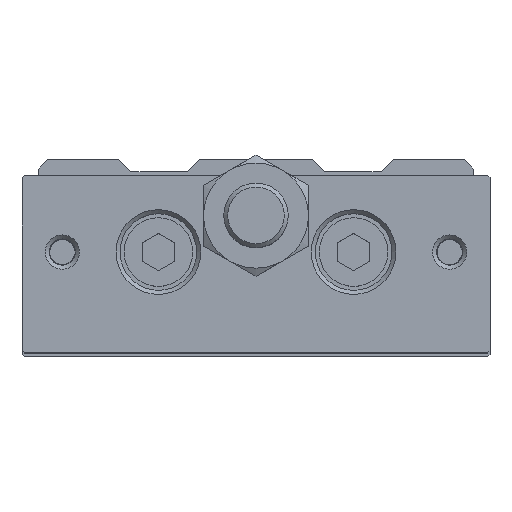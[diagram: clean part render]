
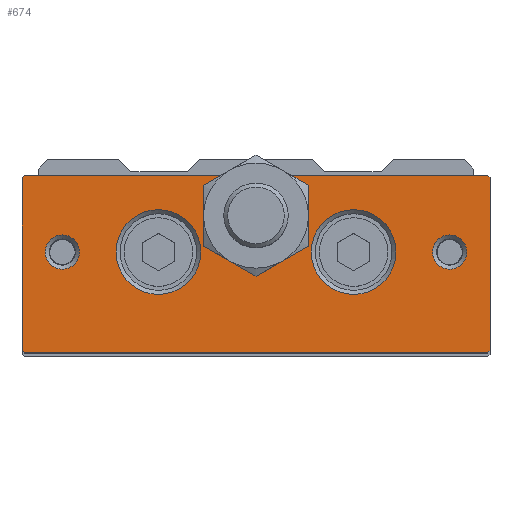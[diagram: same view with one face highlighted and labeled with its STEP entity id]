
A CAD part, top view. The second image highlights one B-rep face of the part: STEP entity #674.
In plain terms, the highlighted planar face has unit normal (0, 0, 1).
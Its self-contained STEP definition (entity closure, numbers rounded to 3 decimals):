
#455=CARTESIAN_POINT('',(-28.7,-13.,168.5));
#456=VERTEX_POINT('',#455);
#463=CARTESIAN_POINT('',(-29.,-12.7,168.5));
#464=VERTEX_POINT('',#463);
#465=CARTESIAN_POINT('',(-28.7,-13.,168.5));
#466=DIRECTION('',(-0.707,0.707,0.0));
#467=VECTOR('',#466,0.424);
#468=LINE('',#465,#467);
#469=EDGE_CURVE('',#456,#464,#468,.T.);
#486=CARTESIAN_POINT('',(-29.,8.7,168.5));
#487=VERTEX_POINT('',#486);
#488=CARTESIAN_POINT('',(-29.,8.7,168.5));
#489=DIRECTION('',(0.0,-1.0,0.0));
#490=VECTOR('',#489,21.4);
#491=LINE('',#488,#490);
#492=EDGE_CURVE('',#487,#464,#491,.T.);
#522=CARTESIAN_POINT('',(0.0,-13.,168.5));
#523=DIRECTION('',(0.0,0.0,1.0));
#524=DIRECTION('',(1.0,0.0,0.0));
#525=AXIS2_PLACEMENT_3D('',#522,#523,#524);
#526=PLANE('',#525);
#527=ORIENTED_EDGE('',*,*,#469,.F.);
#528=CARTESIAN_POINT('',(28.7,-13.,168.5));
#529=VERTEX_POINT('',#528);
#530=CARTESIAN_POINT('',(-28.7,-13.,168.5));
#531=DIRECTION('',(1.0,0.0,0.0));
#532=VECTOR('',#531,57.4);
#533=LINE('',#530,#532);
#534=EDGE_CURVE('',#456,#529,#533,.T.);
#535=ORIENTED_EDGE('',*,*,#534,.T.);
#536=CARTESIAN_POINT('',(29.,-12.7,168.5));
#537=VERTEX_POINT('',#536);
#538=CARTESIAN_POINT('',(29.,-12.7,168.5));
#539=DIRECTION('',(-0.707,-0.707,0.0));
#540=VECTOR('',#539,0.424);
#541=LINE('',#538,#540);
#542=EDGE_CURVE('',#537,#529,#541,.T.);
#543=ORIENTED_EDGE('',*,*,#542,.F.);
#544=CARTESIAN_POINT('',(29.,8.7,168.5));
#545=VERTEX_POINT('',#544);
#546=CARTESIAN_POINT('',(29.,-12.7,168.5));
#547=DIRECTION('',(0.0,1.0,0.0));
#548=VECTOR('',#547,21.4);
#549=LINE('',#546,#548);
#550=EDGE_CURVE('',#537,#545,#549,.T.);
#551=ORIENTED_EDGE('',*,*,#550,.T.);
#552=CARTESIAN_POINT('',(28.7,9.,168.5));
#553=VERTEX_POINT('',#552);
#554=CARTESIAN_POINT('',(28.7,9.,168.5));
#555=DIRECTION('',(0.707,-0.707,0.0));
#556=VECTOR('',#555,0.424);
#557=LINE('',#554,#556);
#558=EDGE_CURVE('',#553,#545,#557,.T.);
#559=ORIENTED_EDGE('',*,*,#558,.F.);
#560=CARTESIAN_POINT('',(4.153,9.,168.5));
#561=VERTEX_POINT('',#560);
#562=CARTESIAN_POINT('',(28.7,9.,168.5));
#563=DIRECTION('',(-1.0,0.0,0.0));
#564=VECTOR('',#563,24.547);
#565=LINE('',#562,#564);
#566=EDGE_CURVE('',#553,#561,#565,.T.);
#567=ORIENTED_EDGE('',*,*,#566,.T.);
#568=CARTESIAN_POINT('',(6.5,4.,168.5));
#569=VERTEX_POINT('',#568);
#570=CARTESIAN_POINT('',(0.0,4.,168.5));
#571=DIRECTION('',(0.0,0.0,1.0));
#572=DIRECTION('',(0.0,1.0,0.0));
#573=AXIS2_PLACEMENT_3D('',#570,#571,#572);
#574=CIRCLE('',#573,6.5);
#575=EDGE_CURVE('',#569,#561,#574,.T.);
#576=ORIENTED_EDGE('',*,*,#575,.F.);
#577=CARTESIAN_POINT('',(3.25,-1.629,168.5));
#578=VERTEX_POINT('',#577);
#579=CARTESIAN_POINT('',(0.0,4.,168.5));
#580=DIRECTION('',(0.0,0.0,1.0));
#581=DIRECTION('',(0.0,1.0,0.0));
#582=AXIS2_PLACEMENT_3D('',#579,#580,#581);
#583=CIRCLE('',#582,6.5);
#584=EDGE_CURVE('',#578,#569,#583,.T.);
#585=ORIENTED_EDGE('',*,*,#584,.F.);
#586=CARTESIAN_POINT('',(-3.25,-1.629,168.5));
#587=VERTEX_POINT('',#586);
#588=CARTESIAN_POINT('',(0.0,4.,168.5));
#589=DIRECTION('',(0.0,0.0,1.0));
#590=DIRECTION('',(0.0,1.0,0.0));
#591=AXIS2_PLACEMENT_3D('',#588,#589,#590);
#592=CIRCLE('',#591,6.5);
#593=EDGE_CURVE('',#587,#578,#592,.T.);
#594=ORIENTED_EDGE('',*,*,#593,.F.);
#595=CARTESIAN_POINT('',(-6.5,4.,168.5));
#596=VERTEX_POINT('',#595);
#597=CARTESIAN_POINT('',(0.0,4.,168.5));
#598=DIRECTION('',(0.0,0.0,1.0));
#599=DIRECTION('',(0.0,1.0,0.0));
#600=AXIS2_PLACEMENT_3D('',#597,#598,#599);
#601=CIRCLE('',#600,6.5);
#602=EDGE_CURVE('',#596,#587,#601,.T.);
#603=ORIENTED_EDGE('',*,*,#602,.F.);
#604=CARTESIAN_POINT('',(-4.153,9.,168.5));
#605=VERTEX_POINT('',#604);
#606=CARTESIAN_POINT('',(0.0,4.,168.5));
#607=DIRECTION('',(0.0,0.0,1.0));
#608=DIRECTION('',(0.0,1.0,0.0));
#609=AXIS2_PLACEMENT_3D('',#606,#607,#608);
#610=CIRCLE('',#609,6.5);
#611=EDGE_CURVE('',#605,#596,#610,.T.);
#612=ORIENTED_EDGE('',*,*,#611,.F.);
#613=CARTESIAN_POINT('',(-28.7,9.,168.5));
#614=VERTEX_POINT('',#613);
#615=CARTESIAN_POINT('',(-4.153,9.,168.5));
#616=DIRECTION('',(-1.0,0.0,0.0));
#617=VECTOR('',#616,24.547);
#618=LINE('',#615,#617);
#619=EDGE_CURVE('',#605,#614,#618,.T.);
#620=ORIENTED_EDGE('',*,*,#619,.T.);
#621=CARTESIAN_POINT('',(-29.,8.7,168.5));
#622=DIRECTION('',(0.707,0.707,0.0));
#623=VECTOR('',#622,0.424);
#624=LINE('',#621,#623);
#625=EDGE_CURVE('',#487,#614,#624,.T.);
#626=ORIENTED_EDGE('',*,*,#625,.F.);
#627=ORIENTED_EDGE('',*,*,#492,.T.);
#628=EDGE_LOOP('',(#527,#535,#543,#551,#559,#567,#576,#585,#594,#603,#612,#620,#626,#627));
#629=FACE_OUTER_BOUND('',#628,.T.);
#630=CARTESIAN_POINT('',(-21.879,-0.5,168.5));
#631=VERTEX_POINT('',#630);
#632=CARTESIAN_POINT('',(-24.,-0.5,168.5));
#633=DIRECTION('',(0.0,0.0,1.0));
#634=DIRECTION('',(-1.0,0.0,0.0));
#635=AXIS2_PLACEMENT_3D('',#632,#633,#634);
#636=CIRCLE('',#635,2.121);
#637=EDGE_CURVE('',#631,#631,#636,.T.);
#638=ORIENTED_EDGE('',*,*,#637,.F.);
#639=EDGE_LOOP('',(#638));
#640=FACE_BOUND('',#639,.T.);
#641=CARTESIAN_POINT('',(26.121,-0.5,168.5));
#642=VERTEX_POINT('',#641);
#643=CARTESIAN_POINT('',(24.,-0.5,168.5));
#644=DIRECTION('',(0.0,0.0,1.0));
#645=DIRECTION('',(-1.0,0.0,0.0));
#646=AXIS2_PLACEMENT_3D('',#643,#644,#645);
#647=CIRCLE('',#646,2.121);
#648=EDGE_CURVE('',#642,#642,#647,.T.);
#649=ORIENTED_EDGE('',*,*,#648,.F.);
#650=EDGE_LOOP('',(#649));
#651=FACE_BOUND('',#650,.T.);
#652=CARTESIAN_POINT('',(-6.85,-0.5,168.5));
#653=VERTEX_POINT('',#652);
#654=CARTESIAN_POINT('',(-12.1,-0.5,168.5));
#655=DIRECTION('',(0.0,0.0,1.0));
#656=DIRECTION('',(-1.0,0.0,0.0));
#657=AXIS2_PLACEMENT_3D('',#654,#655,#656);
#658=CIRCLE('',#657,5.25);
#659=EDGE_CURVE('',#653,#653,#658,.T.);
#660=ORIENTED_EDGE('',*,*,#659,.F.);
#661=EDGE_LOOP('',(#660));
#662=FACE_BOUND('',#661,.T.);
#663=CARTESIAN_POINT('',(17.35,-0.5,168.5));
#664=VERTEX_POINT('',#663);
#665=CARTESIAN_POINT('',(12.1,-0.5,168.5));
#666=DIRECTION('',(0.0,0.0,1.0));
#667=DIRECTION('',(-1.0,0.0,0.0));
#668=AXIS2_PLACEMENT_3D('',#665,#666,#667);
#669=CIRCLE('',#668,5.25);
#670=EDGE_CURVE('',#664,#664,#669,.T.);
#671=ORIENTED_EDGE('',*,*,#670,.F.);
#672=EDGE_LOOP('',(#671));
#673=FACE_BOUND('',#672,.T.);
#674=ADVANCED_FACE('',(#629,#640,#651,#662,#673),#526,.T.);
